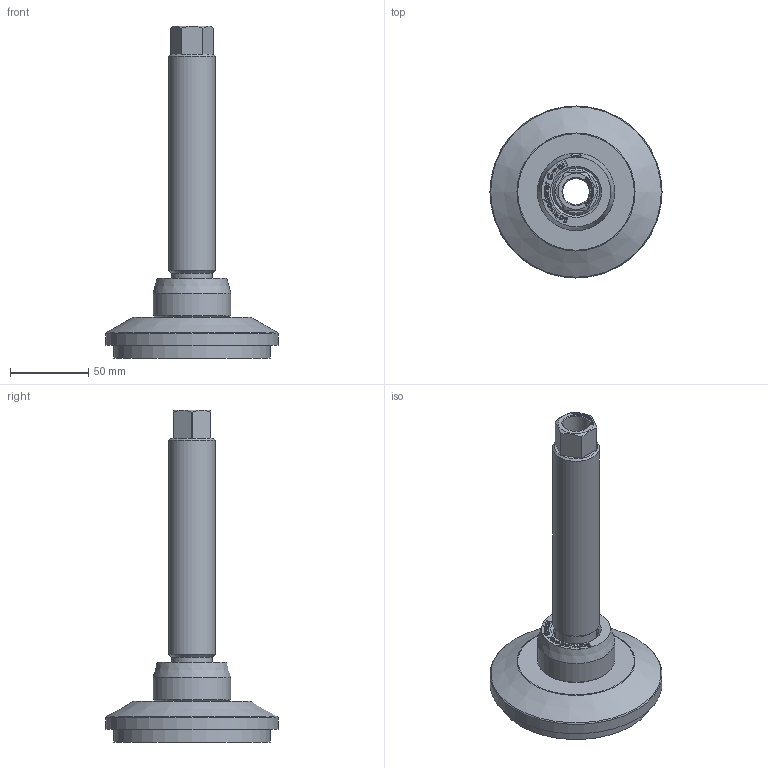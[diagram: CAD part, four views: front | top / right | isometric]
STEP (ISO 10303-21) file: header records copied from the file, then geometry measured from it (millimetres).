
FILE_DESCRIPTION(/* description */ ('JCM 100C - M30 - S12'),/* implementation_level */ '2;1');
FILE_NAME(/* name */ 'C:\Users\Public\Documents\Autodesk\Inventor LT 2016\Workspace\Fussplatte+Blechteller\JCMHD 100C - S12 - HSD180.stp',/* time_stamp */ '2017-01-10T11:19:12+01:00',/* author */ ('T. Rey'),/* organization */ ('Schwaderer GmbH Robert-Bosch-Str. 10 71563 Affalterbach'),/* preprocessor_version */ 'ST-DEVELOPER v16.1',/* originating_system */ 'Autodesk Inventor LT ',/* authorisation */ '');
FILE_SCHEMA (('CONFIG_CONTROL_DESIGN'));
Length unit declared in the file: millimetre
Products named in the file (1): JCM - M30
Bounding box: 110 x 110 x 212.13 mm (x, y, z)
Volume: 304009.9 mm3; surface area: 80456.4 mm2
Topology: 4 solids, 4 shells, 479 faces, 1260 edges, 829 vertices
Faces by surface type: plane 243, bspline 192, cylinder 23, cone 17, torus 3, sphere 1
Full cylindrical faces by diameter (mm): 5 x1, 17 x1, 18.5 x1, 25 x1, 26 x1, 26.5 x1, 27.5 x1, 28.5 x2, 30 x2, 31 x1, 49.5 x1, 100 x2, 110 x1
Entity records: 15857 total; most frequent: CARTESIAN_POINT 5181, ORIENTED_EDGE 2440, DIRECTION 1468, EDGE_CURVE 1220, VERTEX_POINT 824, LINE 750, VECTOR 750, EDGE_LOOP 564
